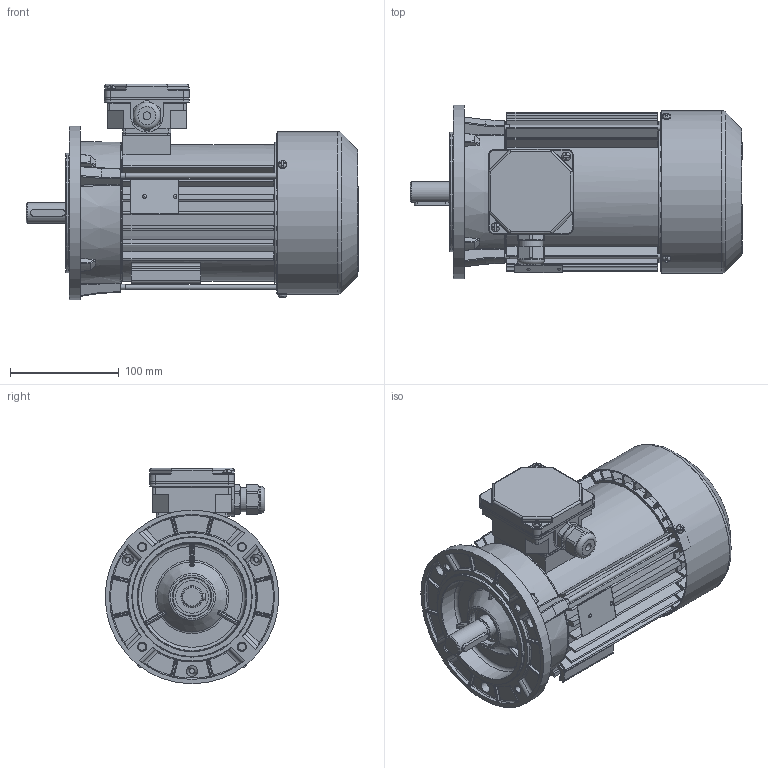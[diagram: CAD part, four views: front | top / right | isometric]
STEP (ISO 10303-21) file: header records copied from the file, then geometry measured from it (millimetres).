
FILE_DESCRIPTION( ( 'Unknown' ), '1' );
FILE_NAME( 'G:/Poczta Tk-1/STP/w.m.80/Sh80/SKh80x-.C1.stp', 'Unknown', ( 'K. Szlosek' ), ( 'BESEL S.A.' ), 'PSStep 17.0.49', 'Unknown', ' ' );
FILE_SCHEMA( ( 'AUTOMOTIVE_DESIGN { 1 0 10303 214 1 1 1 1 }' ) );
Length unit declared in the file: millimetre
Products named in the file (29): skrznka zaciskowa trójfazowa ; K4-2820 Uszczelka nr 2 Sh71,80; Dławnica M20x1,5; K2-0859 Podstawa skrzynki 6-cio zaciskowej; K2-0860 Pokrywka skrzynki zaciskowej; Assem1; K1-1257 Kadłub S(E,M)h80-C i D; K2-2027 Tarcza łożyskowa P S(E,M)h80-.A,C; Wkręt samogwintujący M4x16; Wkręt samogwintujący M4x10; K3-7039 wał standard Sh80-C; K4-4489 Osłona przewietrznika Sh80,90-A,C; K4-2320 Uszczelka nr 1 Sh71,80; Wpust A6x6x32; K2-1715 Przewietrznik; Nitokołek A 2x6; Łożysko 6204; Śruba ściągająca E_M5x168; Tabliczka znamionowa 32x44; K1-1259 Tarcza kołnierzowa 80 B14_1 
Assembly tree (44 placements, depth 3):
  Assem1
    K1-1257 Kadłub S(E,M)h80-C i D
    K2-2027 Tarcza łożyskowa P S(E,M)h80-.A,C
    Wkręt samogwintujący M4x16  x2
    Wkręt samogwintujący M4x10  x3
    K3-7039 wał standard Sh80-C
    K4-4489 Osłona przewietrznika Sh80,90-A,C
    K4-2320 Uszczelka nr 1 Sh71,80
    Wpust A6x6x32
    K2-1715 Przewietrznik
    Nitokołek A 2x6  x2
    Łożysko 6204  x2
    Łożysko 6204  x2
    Łożysko 6204  x2
    Łożysko 6204  x2
    Łożysko 6204  x2
    Łożysko 6204  x2
    Łożysko 6204  x2
    Łożysko 6204  x2
    Łożysko 6204  x2
    Łożysko 6204  x2
    Śruba ściągająca E_M5x168  x3
    Tabliczka znamionowa 32x44
    K1-1259 Tarcza kołnierzowa 80 B14_1 
    skrznka zaciskowa trójfazowa 
      K4-2820 Uszczelka nr 2 Sh71,80
      Dławnica M20x1,5
      K2-0859 Podstawa skrzynki 6-cio zaciskowej
      K2-0860 Pokrywka skrzynki zaciskowej
Bounding box: 305.8 x 160 x 198.5 mm (x, y, z)
Volume: 969559.6 mm3; surface area: 585088.7 mm2
Topology: 43 solids, 59 shells, 2792 faces, 7524 edges, 4791 vertices
Faces by surface type: plane 1221, cylinder 829, bspline 399, cone 153, torus 148, sphere 42
Full cylindrical faces by diameter (mm): 2 x2, 2.4 x2, 3 x1, 3.7 x11, 4 x5, 4.2 x3, 4.5 x1, 4.6 x3, 4.8 x4, 5 x7, 5.5 x3, 6.8 x4, 7 x1, 8 x9, 18.376 x1, 18.38 x1, 18.6 x1, 19 x1, 19.3 x1, 19.5 x2, 19.9 x1, 20 x5, 20.3 x2, 20.4 x4, 22.3 x1, 25 x1, 25.5 x1, 25.65 x1, 26 x3, 26.05 x1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
Entity records: 159981 total; most frequent: CARTESIAN_POINT 77299, ORIENTED_EDGE 13468, DIRECTION 12334, EDGE_CURVE 6734, AXIS2_PLACEMENT_3D 4633, VERTEX_POINT 4449, EDGE_LOOP 3117, LINE 3068
